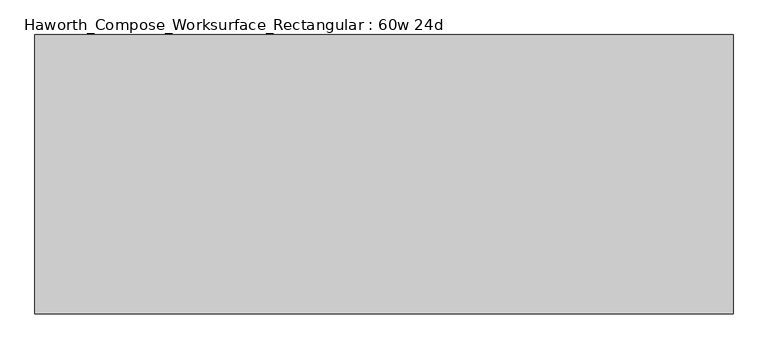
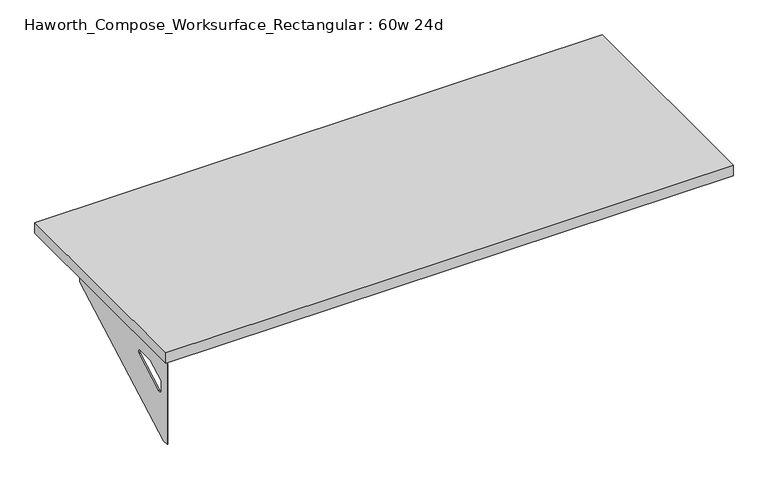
"""IFC4 building model written with IfcOpenShell, lengths in millimetres: furniture geometry, Haworth_Compose_Worksurface_Rectangular : 60w 24d."""

from ifc_helpers import new_model, si_unit, frame, origin, place, context, project, spatial, polyline, circle_curve, outline, extrude, source, transform, mapped, element, save
from ifc_brep_helpers import plane_surface, revolved_surface, advanced_brep


def haworth_compose_worksurface_rectangular_60w_24d_ae5aded8(model_context):
    return source(origin(), model_context, "Body", "SolidModel", [
        advanced_brep(
        [(-756.44375, -304.8, 475.45625), (-756.44375, -288.925, 475.45625), (-756.44375, 101.6, 691.7192568), (-756.44375, 101.6, 704.05625), (-756.44375, -288.925, 704.05625), (-756.44375, -304.8, 704.05625), (-756.44375, -221.490072, 665.95625), (-756.44375, -177.8355284, 665.95625), (-756.44375, -175.1564235, 656.3705539), (-756.44375, -266.8776173, 605.5776439), (-756.44375, -276.225, 611.1756969), (-756.44375, -276.225, 634.6860246), (-756.44375, -274.4730055, 637.5242776), (-756.44375, -224.5663437, 665.1613425), (-758.825, -304.8, 475.45625), (-758.825, -304.8, 704.05625), (-758.825, -288.925, 704.05625), (-758.825, -288.925, 706.4375), (-758.825, 101.6, 706.4375), (-758.825, 101.6, 691.7192568), (-758.825, -288.925, 475.45625), (-758.825, -221.490072, 665.95625), (-758.825, -224.5663437, 665.1613425), (-758.825, -274.4730055, 637.5242776), (-758.825, -276.225, 634.6860246), (-758.825, -276.225, 611.1756969), (-758.825, -266.8776173, 605.5776439), (-758.825, -175.1564235, 656.3705539), (-758.825, -177.8355284, 665.95625), (-717.55, 101.6, 706.4375), (-717.55, 101.6, 704.05625), (-717.55, -288.925, 704.05625), (-717.55, -288.925, 706.4375)],
        [
            (0, 1),
            (1, 2),
            (2, 3),
            (3, 4),
            (4, 5),
            (5, 0),
            (6, 7),
            (7, 8, circle_curve(frame((-756.44375, -177.8355284, 660.7890106), z_axis=(-1.0, 0.0, 0.0), x_axis=(0.0, 1.0, 0.0)), 5.1672394)),
            (8, 9),
            (9, 10, circle_curve(frame((-756.44375, -269.875, 611.1756969), z_axis=(-1.0, 0.0, 0.0), x_axis=(0.0, 1.0, 0.0)), 6.35)),
            (10, 11),
            (11, 12, circle_curve(frame((-756.44375, -273.05, 634.6860246), z_axis=(-1.0, 0.0, 0.0), x_axis=(0.0, 1.0, 0.0)), 3.175)),
            (12, 13),
            (13, 6, circle_curve(frame((-756.44375, -221.490072, 659.60625), z_axis=(-1.0, 0.0, 0.0), x_axis=(0.0, 1.0, 0.0)), 6.35)),
            (14, 15),
            (15, 16),
            (16, 17),
            (17, 18),
            (18, 19),
            (19, 20),
            (20, 14),
            (21, 22, circle_curve(frame((-758.825, -221.490072, 659.60625), z_axis=(1.0, 0.0, 0.0), x_axis=(0.0, 1.0, 0.0)), 6.35)),
            (22, 23),
            (23, 24, circle_curve(frame((-758.825, -273.05, 634.6860246), z_axis=(1.0, 0.0, 0.0), x_axis=(0.0, 1.0, 0.0)), 3.175)),
            (24, 25),
            (25, 26, circle_curve(frame((-758.825, -269.875, 611.1756969), z_axis=(1.0, 0.0, 0.0), x_axis=(0.0, 1.0, 0.0)), 6.35)),
            (26, 27),
            (27, 28, circle_curve(frame((-758.825, -177.8355284, 660.7890106), z_axis=(1.0, 0.0, 0.0), x_axis=(0.0, 1.0, 0.0)), 5.1672394)),
            (28, 21),
            (4, 16),
            (15, 5),
            (14, 0),
            (20, 1),
            (19, 2),
            (18, 29),
            (29, 30),
            (30, 3),
            (6, 21),
            (28, 7),
            (9, 26),
            (25, 10),
            (24, 11),
            (23, 12),
            (27, 8),
            (31, 4),
            (30, 31),
            (32, 29),
            (17, 32),
            (31, 32),
            (22, 13),
        ],
        [
            plane_surface(frame((-756.44375, -304.8, 475.45625), z_axis=(1.0, 0.0, 0.0), x_axis=(0.0, -1.0, 0.0))),
            plane_surface(frame((-758.825, -304.8, 475.45625), z_axis=(-1.0, 0.0, 0.0), x_axis=(0.0, 1.0, 0.0))),
            plane_surface(frame((-758.825, 101.6, 704.05625), z_axis=(0.0, 0.0, 1.0), x_axis=(1.0, 0.0, 0.0))),
            plane_surface(frame((-758.825, -304.8, 704.05625), z_axis=(0.0, -1.0, 0.0), x_axis=(1.0, 0.0, 0.0))),
            plane_surface(frame((-758.825, -304.8, 475.45625), z_axis=(0.0, 0.0, -1.0), x_axis=(1.0, 0.0, 0.0))),
            plane_surface(frame((-758.825, -288.925, 475.45625), z_axis=(0.0, 0.48445223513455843, -0.8748177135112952), x_axis=(1.0, 0.0, 0.0))),
            plane_surface(frame((-758.825, 101.6, 691.7192568), z_axis=(0.0, 1.0, 0.0), x_axis=(1.0, 0.0, 0.0))),
            plane_surface(frame((-758.825, -221.490072, 665.95625), z_axis=(0.0, 0.0, -1.0), x_axis=(1.0, 0.0, 0.0))),
            revolved_surface(polyline([(-756.44375, -263.525, 611.1756969), (-758.825, -263.525, 611.1756969)]), (-758.825, -269.875, 611.1756969), (1.0, 0.0, 0.0)),
            plane_surface(frame((-758.825, -276.225, 611.1756969), z_axis=(0.0, 1.0, 0.0), x_axis=(1.0, 0.0, 0.0))),
            revolved_surface(polyline([(-756.44375, -269.875, 634.6860246), (-758.825, -269.875, 634.6860246)]), (-758.825, -273.05, 634.6860246), (1.0, 0.0, 0.0)),
            revolved_surface(polyline([(-756.44375, -172.668289, 660.7890106), (-758.825, -172.668289, 660.7890106)]), (-758.825, -177.8355284, 660.7890106), (1.0, 0.0, 0.0)),
            plane_surface(frame((-758.825, -288.925, 704.05625), z_axis=(0.0, 0.0, -1.0), x_axis=(1.0, 0.0, 0.0))),
            plane_surface(frame((-758.825, -288.925, 706.4375), z_axis=(0.0, 0.0, 1.0), x_axis=(-1.0, 0.0, 0.0))),
            plane_surface(frame((-717.55, -288.925, 706.4375), z_axis=(0.0, -1.0, 0.0), x_axis=(0.0, 0.0, -1.0))),
            plane_surface(frame((-717.55, 101.6, 706.4375), z_axis=(1.0, 0.0, 0.0), x_axis=(0.0, 0.0, -1.0))),
            plane_surface(frame((-758.825, -175.1564235, 656.3705539), z_axis=(0.0, -0.4844522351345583, 0.8748177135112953), x_axis=(1.0, 0.0, 0.0))),
            plane_surface(frame((-758.825, -274.4730055, 637.5242776), z_axis=(0.0, 0.4844522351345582, -0.8748177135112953), x_axis=(1.0, 0.0, 0.0))),
            revolved_surface(polyline([(-756.44375, -215.140072, 659.60625), (-758.825, -215.140072, 659.60625)]), (-758.825, -221.490072, 659.60625), (1.0, 0.0, 0.0)),
        ],
        [
            (0, [[1, 2, 3, 4, 5, 6], [7, 8, 9, 10, 11, 12, 13, 14]]),
            (1, [[15, 16, 17, 18, 19, 20, 21], [22, 23, 24, 25, 26, 27, 28, 29]]),
            (2, [[-5, 30, -16, 31]]),
            (3, [[-31, -15, 32, -6]]),
            (4, [[-32, -21, 33, -1]]),
            (5, [[-33, -20, 34, -2]]),
            (6, [[-34, -19, 35, 36, 37, -3]]),
            (7, [[38, -29, 39, -7]]),
            (8, [[40, -26, 41, -10]]),
            (9, [[-41, -25, 42, -11]]),
            (10, [[-42, -24, 43, -12]]),
            (11, [[-39, -28, 44, -8]]),
            (12, [[45, -4, -37, 46]]),
            (13, [[47, -35, -18, 48]]),
            (14, [[-17, -30, -45, 49, -48]]),
            (15, [[-36, -47, -49, -46]]),
            (16, [[-44, -27, -40, -9]]),
            (17, [[-43, -23, 50, -13]]),
            (18, [[-50, -22, -38, -14]]),
        ],
    ),
        extrude(outline(polyline([(762.0, -304.8), (-762.0, -304.8), (-762.0, 304.8), (762.0, 304.8), (762.0, -304.8)])), frame((0.0, 0.0, 706.4375), z_axis=(0.0, 0.0, 1.0), x_axis=(1.0, 0.0, 0.0)), (0.0, 0.0, 1.0), 30.1625),
    ])


if __name__ == "__main__":
    model = new_model("IFC4")
    model_context = context("Model", 3, world=origin())
    ifc_project = project(units=[si_unit("LENGTHUNIT", "METRE", prefix="MILLI")], contexts=[model_context])
    site = spatial("IfcSite", under=ifc_project)
    building = spatial("IfcBuilding", under=site)
    placement = place(None, origin())
    haworth_compose_worksurface_rectangular_60w_24d_shape = haworth_compose_worksurface_rectangular_60w_24d_ae5aded8(model_context)
    element("IfcFurniture", 1, ObjectType="Haworth_Compose_Worksurface_Rectangular : 60w 24d", at=placement, inside=building, context=model_context, shape_type="MappedRepresentation", body=[
        mapped(haworth_compose_worksurface_rectangular_60w_24d_shape, transform((0.0, 0.0, 0.0), x_axis=(1.0, 0.0, 0.0), y_axis=(0.0, 1.0, 0.0), z_axis=(0.0, 0.0, 1.0))),
    ])
    save(model, "model.ifc")
